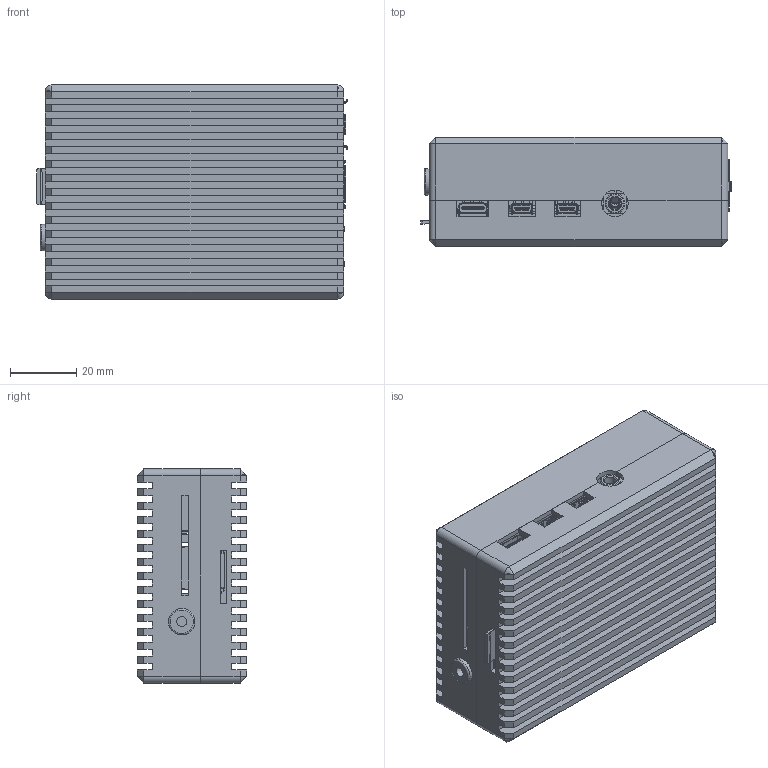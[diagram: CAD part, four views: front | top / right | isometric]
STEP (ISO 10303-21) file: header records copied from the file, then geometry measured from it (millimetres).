
FILE_DESCRIPTION(/* description */ (''),/* implementation_level */ '2;1');
FILE_NAME(/* name */ 'C:\Releases\VSE\STNDR-101414_website\3d_VSE - STNDR-101414.stp',/* time_stamp */ '2022-06-01T11:44:31+02:00',/* author */ ('jbs3'),/* organization */ (''),/* preprocessor_version */ 'ST-DEVELOPER v17',/* originating_system */ 'Autodesk Inventor 2018',/* authorisation */ '');
FILE_SCHEMA (('AUTOMOTIVE_DESIGN { 1 0 10303 214 3 1 1 }'));
Products named in the file (1): 3d_VSE - STNDR-101414
Bounding box: 93.49 x 33 x 64.5 mm (x, y, z)
Volume: 73880.5 mm3; surface area: 89850.1 mm2
Topology: 6 solids, 6 shells, 9954 faces, 28562 edges, 18650 vertices
Faces by surface type: plane 7625, cylinder 1839, bspline 419, cone 54, sphere 10, torus 7
Full cylindrical faces by diameter (mm): 1 x47, 2.7 x4, 3 x5, 3.6 x1, 5 x2, 6 x10, 8 x2
Entity records: 356512 total; most frequent: CARTESIAN_POINT 84145, ORIENTED_EDGE 57094, DIRECTION 50602, EDGE_CURVE 28547, LINE 23708, VECTOR 23708, VERTEX_POINT 18650, AXIS2_PLACEMENT_3D 13447
